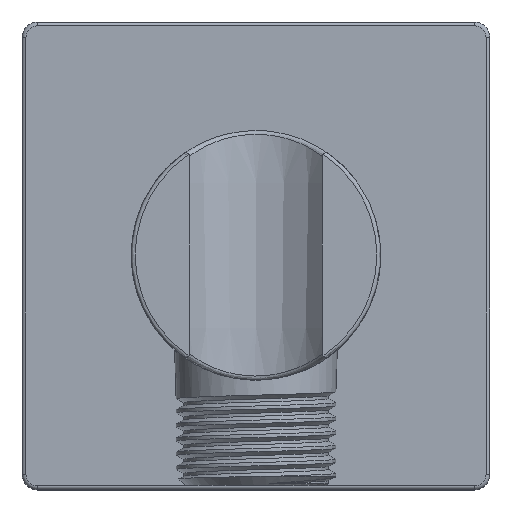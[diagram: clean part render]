
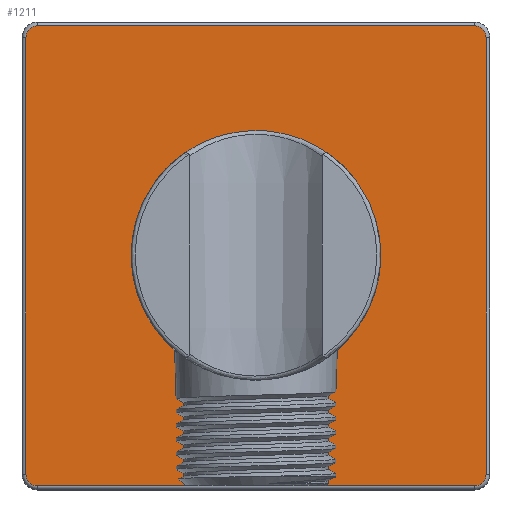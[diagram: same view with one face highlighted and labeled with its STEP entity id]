
A CAD part, top view. The second image highlights one B-rep face of the part: STEP entity #1211.
In plain terms, the highlighted planar face has unit normal (0, 0, 1).
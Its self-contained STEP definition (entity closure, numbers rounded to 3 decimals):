
#41=PLANE('',#1320);
#108=FACE_OUTER_BOUND('',#171,.T.);
#171=EDGE_LOOP('',(#1095,#1096,#1097,#1098,#1099,#1100,#1101,#1102));
#236=CIRCLE('',#1292,1.5);
#242=CIRCLE('',#1300,1.5);
#246=CIRCLE('',#1306,1.5);
#250=CIRCLE('',#1312,1.5);
#344=LINE('',#5814,#411);
#346=LINE('',#5826,#413);
#348=LINE('',#5838,#415);
#349=LINE('',#5846,#416);
#411=VECTOR('',#1508,10.);
#413=VECTOR('',#1522,10.);
#415=VECTOR('',#1536,10.);
#416=VECTOR('',#1547,10.);
#540=VERTEX_POINT('',#5802);
#541=VERTEX_POINT('',#5804);
#543=VERTEX_POINT('',#5810);
#545=VERTEX_POINT('',#5816);
#547=VERTEX_POINT('',#5822);
#549=VERTEX_POINT('',#5828);
#551=VERTEX_POINT('',#5834);
#553=VERTEX_POINT('',#5840);
#712=EDGE_CURVE('',#540,#541,#236,.T.);
#717=EDGE_CURVE('',#541,#543,#344,.T.);
#720=EDGE_CURVE('',#543,#545,#242,.T.);
#723=EDGE_CURVE('',#545,#547,#346,.T.);
#726=EDGE_CURVE('',#547,#549,#246,.T.);
#729=EDGE_CURVE('',#549,#551,#348,.T.);
#732=EDGE_CURVE('',#551,#553,#250,.T.);
#733=EDGE_CURVE('',#553,#540,#349,.T.);
#1095=ORIENTED_EDGE('',*,*,#712,.F.);
#1096=ORIENTED_EDGE('',*,*,#733,.F.);
#1097=ORIENTED_EDGE('',*,*,#732,.F.);
#1098=ORIENTED_EDGE('',*,*,#729,.F.);
#1099=ORIENTED_EDGE('',*,*,#726,.F.);
#1100=ORIENTED_EDGE('',*,*,#723,.F.);
#1101=ORIENTED_EDGE('',*,*,#720,.F.);
#1102=ORIENTED_EDGE('',*,*,#717,.F.);
#1211=ADVANCED_FACE('',(#108),#41,.T.);
#1292=AXIS2_PLACEMENT_3D('',#5805,#1497,#1498);
#1300=AXIS2_PLACEMENT_3D('',#5820,#1515,#1516);
#1306=AXIS2_PLACEMENT_3D('',#5832,#1529,#1530);
#1312=AXIS2_PLACEMENT_3D('',#5844,#1543,#1544);
#1320=AXIS2_PLACEMENT_3D('',#5866,#1568,#1569);
#1497=DIRECTION('center_axis',(0.,0.,-1.));
#1498=DIRECTION('ref_axis',(-0.707,0.707,0.));
#1508=DIRECTION('',(1.,0.,0.));
#1515=DIRECTION('center_axis',(0.,0.,-1.));
#1516=DIRECTION('ref_axis',(0.707,0.707,0.));
#1522=DIRECTION('',(0.,-1.,0.));
#1529=DIRECTION('center_axis',(0.,0.,-1.));
#1530=DIRECTION('ref_axis',(0.707,-0.707,0.));
#1536=DIRECTION('',(-1.,0.,0.));
#1543=DIRECTION('center_axis',(0.,0.,-1.));
#1544=DIRECTION('ref_axis',(-0.707,-0.707,0.));
#1547=DIRECTION('',(0.,1.,0.));
#1568=DIRECTION('center_axis',(0.,0.,1.));
#1569=DIRECTION('ref_axis',(1.,0.,0.));
#5802=CARTESIAN_POINT('',(-86.5,28.,-29.5));
#5804=CARTESIAN_POINT('',(-85.,29.5,-29.5));
#5805=CARTESIAN_POINT('Origin',(-85.,28.,-29.5));
#5810=CARTESIAN_POINT('',(-29.,29.5,-29.5));
#5814=CARTESIAN_POINT('',(-42.,29.5,-29.5));
#5816=CARTESIAN_POINT('',(-27.5,28.,-29.5));
#5820=CARTESIAN_POINT('Origin',(-29.,28.,-29.5));
#5822=CARTESIAN_POINT('',(-27.5,-28.,-29.5));
#5826=CARTESIAN_POINT('',(-27.5,-15.,-29.5));
#5828=CARTESIAN_POINT('',(-29.,-29.5,-29.5));
#5832=CARTESIAN_POINT('Origin',(-29.,-28.,-29.5));
#5834=CARTESIAN_POINT('',(-85.,-29.5,-29.5));
#5838=CARTESIAN_POINT('',(-72.,-29.5,-29.5));
#5840=CARTESIAN_POINT('',(-86.5,-28.,-29.5));
#5844=CARTESIAN_POINT('Origin',(-85.,-28.,-29.5));
#5846=CARTESIAN_POINT('',(-86.5,15.,-29.5));
#5866=CARTESIAN_POINT('Origin',(-57.,0.,-29.5));
